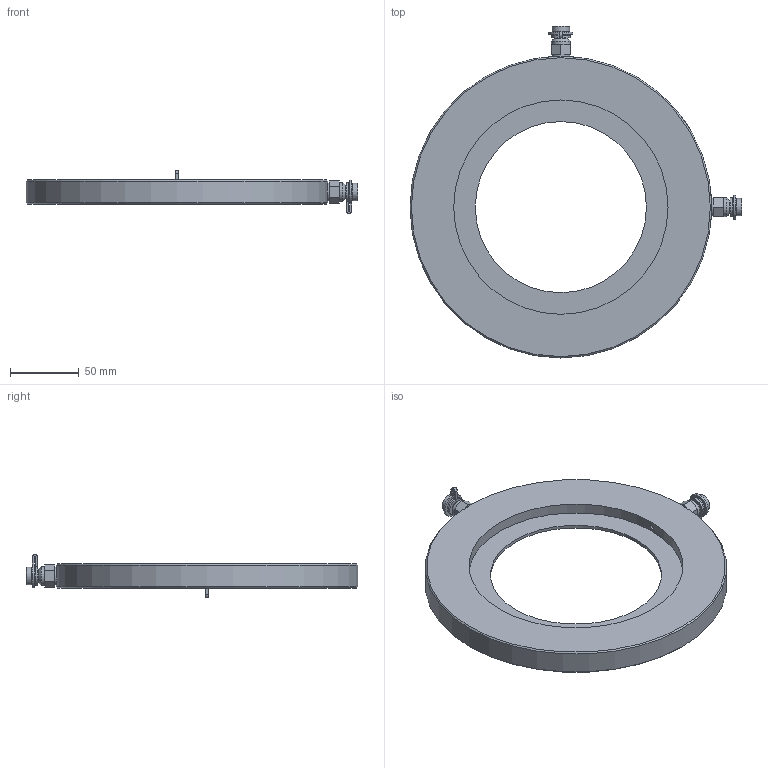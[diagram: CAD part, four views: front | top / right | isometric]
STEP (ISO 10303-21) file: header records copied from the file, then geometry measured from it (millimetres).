
FILE_DESCRIPTION((''),'2;1');
FILE_NAME('P:\Fastrack\53972_CRANE 3D\Workspace\Fig_2000_DN150\Fig_2000_DN150.stp','2011-01-12T16:25:27',('btaylor'),(''),'Autodesk Inventor 2008','Autodesk Inventor 2008','');
FILE_SCHEMA(('AUTOMOTIVE_DESIGN { 1 0 10303 214 1 1 1 1 }'));
Length unit declared in the file: millimetre
Products named in the file (1): Fig_2000_DN150
Bounding box: 242.1 x 242.1 x 31.45 mm (x, y, z)
Volume: 360555.5 mm3; surface area: 75379.8 mm2
Topology: 1 solids, 1 shells, 109 faces, 255 edges, 165 vertices
Faces by surface type: plane 72, cylinder 27, cone 8, bspline 2
Full cylindrical faces by diameter (mm): 3.2 x2, 7.4 x2, 11 x2, 12.7 x2, 13.7 x2, 124.83 x1, 156.3 x2, 220 x1
Entity records: 3939 total; most frequent: CARTESIAN_POINT 1428, DIRECTION 478, ORIENTED_EDGE 440, EDGE_CURVE 220, AXIS2_PLACEMENT_3D 184, EDGE_LOOP 156, VERTEX_POINT 154, VECTOR 110
